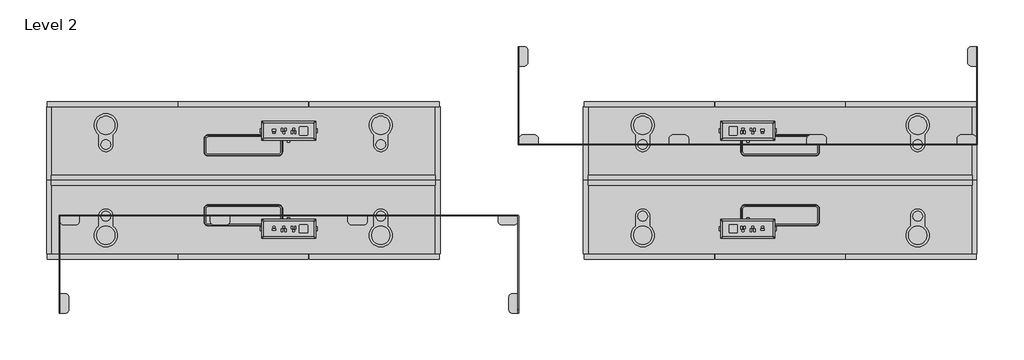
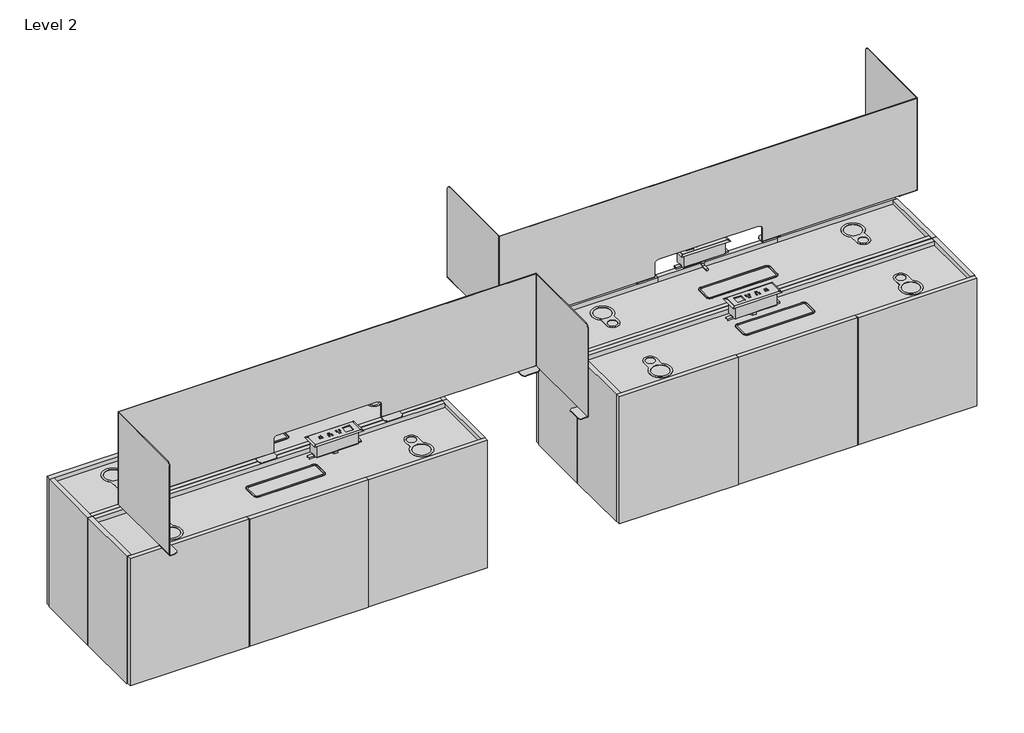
# One storey, incomplete: 10 furniture elements.
"""IFC4 building model written with IfcOpenShell, lengths in millimetres."""

from ifc_helpers import new_model, si_unit, origin, place, context, project, spatial, transform, mapped, element, save
from components import furniture_1481e5b9, furniture_ee5a0780, furniture_dcbf375a, in_surface_6b24b240, in_surface_33791ff7

model = new_model("IFC4")

# Units and contexts
model_context = context("Model", 3, world=origin())
ifc_project = project(units=[si_unit("LENGTHUNIT", "METRE", prefix="MILLI")], contexts=[model_context])

# Site, building, storey
site = spatial("IfcSite", under=ifc_project)
building = spatial("IfcBuilding", under=site)
storey = spatial("IfcBuildingStorey", under=building, Name="Level 2", Elevation=3048.0)

# Furniture
placement = place(None, origin())
furniture_shape = furniture_1481e5b9(model_context)
element("IfcFurniture", 1, ObjectType="Geiger_GeigerOneCasegoods_DesktopMetalPrivacyScreenSideCapsBothEnds : 70.125Wx15Dx15.75H", at=placement, inside=storey, context=model_context, shape_type="MappedRepresentation", body=[
    mapped(furniture_shape, transform((870.5528492, 3705.8820936, 696.3636), x_axis=(1.0, 0.0, 0.0), y_axis=(0.0, 1.0, 0.0), z_axis=(0.0, 0.0, 1.0))),
])
element("IfcFurniture", 2, ObjectType="Geiger_GeigerOneCasegoods_DesktopMetalPrivacyScreenSideCapsBothEnds : 70.125Wx15Dx15.75H", at=placement, inside=storey, context=model_context, shape_type="MappedRepresentation", body=[
    mapped(furniture_shape, transform((872.1528492, 3433.0417935, 696.3636), x_axis=(-1.0, 0.0, 0.0), y_axis=(0.0, -1.0, 0.0), z_axis=(0.0, 0.0, 1.0))),
])
furniture_2_shape = furniture_ee5a0780(model_context)
element("IfcFurniture", 3, ObjectType="Geiger_GeigerOneCasegoods_UtilityCabinetForUseWithCredenzaDeskAccepts2Legs : Vertical Veneer 60Wx 12Dx 22.5H", at=placement, inside=storey, context=model_context, shape_type="MappedRepresentation", body=[
    mapped(furniture_2_shape, transform((1123.5528492, 3567.8857198, -12.7), x_axis=(1.0, 0.0, 0.0), y_axis=(0.0, 1.0, 0.0), z_axis=(0.0, 0.0, 1.0))),
])
element("IfcFurniture", 4, ObjectType="Geiger_GeigerOneCasegoods_UtilityCabinetForUseWithCredenzaDeskAccepts2Legs : Vertical Veneer 60Wx 12Dx 22.5H", at=placement, inside=storey, context=model_context, shape_type="MappedRepresentation", body=[
    mapped(furniture_2_shape, transform((568.3528492, 3567.8857198, -12.7), x_axis=(-1.0, 0.0, 0.0), y_axis=(0.0, -1.0, 0.0), z_axis=(0.0, 0.0, 1.0))),
])
furniture_3_shape = furniture_dcbf375a(model_context)
element("IfcFurniture", 5, ObjectType="Geiger_GeigerOneCasegoods_UtilityCabinetForUseWithCredenzaDeskAccepts2Legs : Vertical Veneer 60Wx 12Dx 22.5H", at=placement, inside=storey, context=model_context, shape_type="MappedRepresentation", body=[
    mapped(furniture_3_shape, transform((568.3528492, 3567.8857198, -12.7), x_axis=(-1.0, 0.0, 0.0), y_axis=(0.0, -1.0, 0.0), z_axis=(0.0, 0.0, 1.0))),
])
element("IfcFurniture", 6, ObjectType="Geiger_GeigerOneCasegoods_UtilityCabinetForUseWithCredenzaDeskAccepts2Legs : Vertical Veneer 60Wx 12Dx 22.5H", at=placement, inside=storey, context=model_context, shape_type="MappedRepresentation", body=[
    mapped(furniture_3_shape, transform((1123.5528492, 3567.8857198, -12.7), x_axis=(1.0, 0.0, 0.0), y_axis=(0.0, 1.0, 0.0), z_axis=(0.0, 0.0, 1.0))),
])
in_surface_shape = in_surface_6b24b240(model_context)
element("IfcFurniture", 7, ObjectType="Geiger_GeigerOneCasegoods_PowerComponent2PowerOutlets1USBA1USBC : In Surface", at=placement, inside=storey, context=model_context, shape_type="MappedRepresentation", body=[
    mapped(in_surface_shape, transform((1760.3793105, 3759.1310382, 733.2068), x_axis=(1.0, 0.0, 0.0), y_axis=(0.0, 1.0, 0.0), z_axis=(0.0, 0.0, 1.0))),
])
element("IfcFurniture", 8, ObjectType="Geiger_GeigerOneCasegoods_PowerComponent2PowerOutlets1USBA1USBC : In Surface", at=placement, inside=storey, context=model_context, shape_type="MappedRepresentation", body=[
    mapped(in_surface_shape, transform((-17.6736121, 3379.792849, 733.2068), x_axis=(-1.0, 0.0, 0.0), y_axis=(0.0, -1.0, 0.0), z_axis=(0.0, 0.0, 1.0))),
])
in_surface_2_shape = in_surface_33791ff7(model_context)
element("IfcFurniture", 9, ObjectType="Geiger_GeigerOneCasegoods_PowerComponent2PowerOutlets1USBA1USBC : In Surface", at=placement, inside=storey, context=model_context, shape_type="MappedRepresentation", body=[
    mapped(in_surface_2_shape, transform((-17.6736121, 3759.1310382, 733.2068), x_axis=(-1.0, 0.0, 0.0), y_axis=(0.0, -1.0, 0.0), z_axis=(0.0, 0.0, 1.0))),
])
element("IfcFurniture", 10, ObjectType="Geiger_GeigerOneCasegoods_PowerComponent2PowerOutlets1USBA1USBC : In Surface", at=placement, inside=storey, context=model_context, shape_type="MappedRepresentation", body=[
    mapped(in_surface_2_shape, transform((1760.3793105, 3379.792849, 733.2068), x_axis=(1.0, 0.0, 0.0), y_axis=(0.0, 1.0, 0.0), z_axis=(0.0, 0.0, 1.0))),
])

save(model, "model.ifc")
